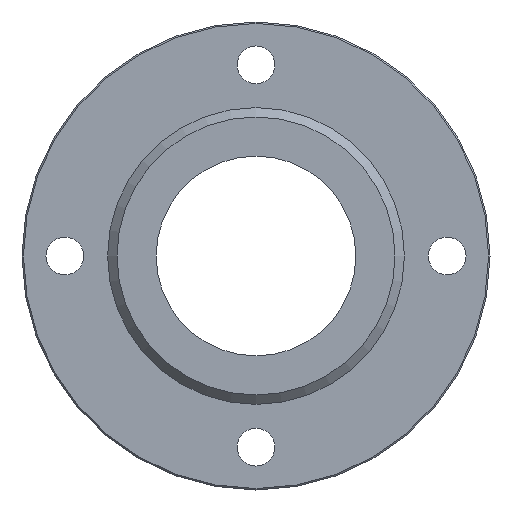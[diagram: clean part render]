
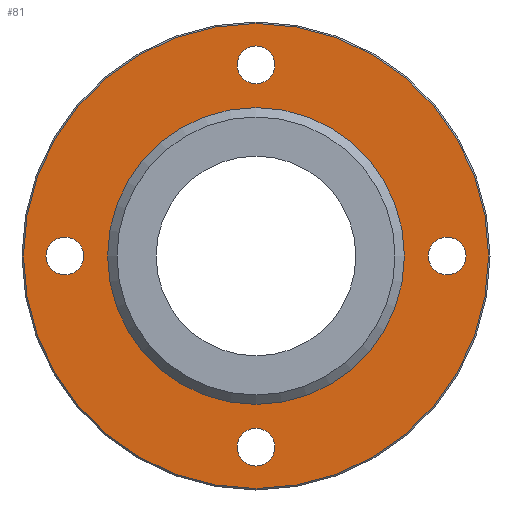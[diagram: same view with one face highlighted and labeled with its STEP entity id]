
A CAD part, left-side view. The second image highlights one B-rep face of the part: STEP entity #81.
In plain terms, the highlighted planar face has unit normal (-1, 0, 0).
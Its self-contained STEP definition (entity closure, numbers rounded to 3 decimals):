
#81=ADVANCED_FACE('',(#119,#120,#121,#122,#123,#124),#125,.F.);
#119=FACE_BOUND('',#190,.T.);
#120=FACE_BOUND('',#191,.T.);
#121=FACE_BOUND('',#192,.T.);
#122=FACE_BOUND('',#193,.T.);
#123=FACE_BOUND('',#194,.T.);
#124=FACE_OUTER_BOUND('',#195,.T.);
#125=PLANE('',#196);
#190=EDGE_LOOP('',(#273));
#191=EDGE_LOOP('',(#274));
#192=EDGE_LOOP('',(#275));
#193=EDGE_LOOP('',(#276));
#194=EDGE_LOOP('',(#277));
#195=EDGE_LOOP('',(#278));
#196=AXIS2_PLACEMENT_3D('',#279,#280,#281);
#273=ORIENTED_EDGE('',*,*,#364,.T.);
#274=ORIENTED_EDGE('',*,*,#365,.T.);
#275=ORIENTED_EDGE('',*,*,#366,.T.);
#276=ORIENTED_EDGE('',*,*,#367,.T.);
#277=ORIENTED_EDGE('',*,*,#363,.F.);
#278=ORIENTED_EDGE('',*,*,#368,.T.);
#279=CARTESIAN_POINT('',(-14.0,40.746,0.0));
#280=DIRECTION('',(1.0,0.0,0.0));
#281=DIRECTION('',(0.0,0.0,-1.0));
#363=EDGE_CURVE('',#399,#399,#400,.T.);
#364=EDGE_CURVE('',#401,#401,#402,.T.);
#365=EDGE_CURVE('',#403,#403,#404,.T.);
#366=EDGE_CURVE('',#405,#405,#406,.T.);
#367=EDGE_CURVE('',#407,#407,#408,.T.);
#368=EDGE_CURVE('',#409,#409,#410,.T.);
#399=VERTEX_POINT('',#449);
#400=CIRCLE('',#450,26.0);
#401=VERTEX_POINT('',#451);
#402=CIRCLE('',#452,3.3);
#403=VERTEX_POINT('',#453);
#404=CIRCLE('',#454,3.3);
#405=VERTEX_POINT('',#455);
#406=CIRCLE('',#456,3.3);
#407=VERTEX_POINT('',#457);
#408=CIRCLE('',#458,3.3);
#409=VERTEX_POINT('',#459);
#410=CIRCLE('',#460,40.746);
#449=CARTESIAN_POINT('',(-14.0,0.0,26.0));
#450=AXIS2_PLACEMENT_3D('',#510,#511,#512);
#451=CARTESIAN_POINT('',(-14.0,0.,30.2));
#452=AXIS2_PLACEMENT_3D('',#513,#514,#515);
#453=CARTESIAN_POINT('',(-14.0,-33.5,-3.3));
#454=AXIS2_PLACEMENT_3D('',#516,#517,#518);
#455=CARTESIAN_POINT('',(-14.0,0.,-36.8));
#456=AXIS2_PLACEMENT_3D('',#519,#520,#521);
#457=CARTESIAN_POINT('',(-14.0,33.5,-3.3));
#458=AXIS2_PLACEMENT_3D('',#522,#523,#524);
#459=CARTESIAN_POINT('',(-14.0,0.0,40.746));
#460=AXIS2_PLACEMENT_3D('',#525,#526,#527);
#510=CARTESIAN_POINT('',(-14.0,0.0,0.0));
#511=DIRECTION('',(-1.0,0.0,0.0));
#512=DIRECTION('',(0.0,0.0,1.0));
#513=CARTESIAN_POINT('',(-14.0,0.,33.5));
#514=DIRECTION('',(1.0,0.0,0.0));
#515=DIRECTION('',(0.0,0.0,-1.0));
#516=CARTESIAN_POINT('',(-14.0,-33.5,0.0));
#517=DIRECTION('',(1.0,0.0,0.0));
#518=DIRECTION('',(0.0,0.0,-1.0));
#519=CARTESIAN_POINT('',(-14.0,0.,-33.5));
#520=DIRECTION('',(1.0,0.0,0.0));
#521=DIRECTION('',(0.0,0.0,-1.0));
#522=CARTESIAN_POINT('',(-14.0,33.5,0.0));
#523=DIRECTION('',(1.0,0.0,0.0));
#524=DIRECTION('',(0.0,0.0,-1.0));
#525=CARTESIAN_POINT('',(-14.0,0.0,0.0));
#526=DIRECTION('',(-1.0,0.0,0.0));
#527=DIRECTION('',(0.0,0.0,1.0));
